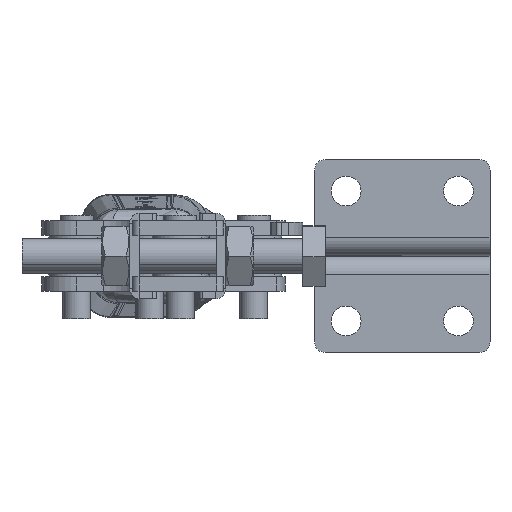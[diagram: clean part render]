
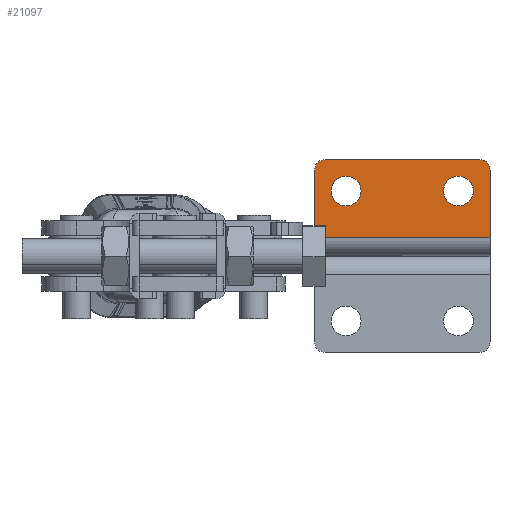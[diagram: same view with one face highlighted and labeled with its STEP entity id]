
A CAD part, left-side view. The second image highlights one B-rep face of the part: STEP entity #21097.
In plain terms, the highlighted planar face has unit normal (-1, 0, 0).
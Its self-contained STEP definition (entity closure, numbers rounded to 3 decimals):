
#431 = EDGE_CURVE ( 'NONE', #11161, #22564, #11513, .T. ) ;
#456 = CARTESIAN_POINT ( 'NONE',  ( -30.25, 22.409, 0. ) ) ;
#732 = CIRCLE ( 'NONE', #23897, 4.25 ) ;
#737 = VERTEX_POINT ( 'NONE', #19808 ) ;
#911 = CARTESIAN_POINT ( 'NONE',  ( -30.25, 19.409, 20.25 ) ) ;
#1517 = EDGE_CURVE ( 'NONE', #11161, #737, #16766, .T. ) ;
#1568 = DIRECTION ( 'NONE',  ( 0., 0., -1. ) ) ;
#1666 = ORIENTED_EDGE ( 'NONE', *, *, #1517, .F. ) ;
#2312 = CARTESIAN_POINT ( 'NONE',  ( -30.25, 0., 23.25 ) ) ;
#2887 = DIRECTION ( 'NONE',  ( 0., 0., -1. ) ) ;
#3035 = CARTESIAN_POINT ( 'NONE',  ( -30.25, 0., 0. ) ) ;
#3773 = EDGE_LOOP ( 'NONE', ( #10591, #19129 ) ) ;
#4104 = EDGE_CURVE ( 'NONE', #10961, #737, #20628, .T. ) ;
#4258 = DIRECTION ( 'NONE',  ( -1., 0., 0. ) ) ;
#4538 = FACE_OUTER_BOUND ( 'NONE', #17768, .T. ) ;
#4885 = VERTEX_POINT ( 'NONE', #19640 ) ;
#5220 = CARTESIAN_POINT ( 'NONE',  ( -30.25, -18.591, 18.5 ) ) ;
#5235 = ORIENTED_EDGE ( 'NONE', *, *, #10837, .T. ) ;
#5779 = CARTESIAN_POINT ( 'NONE',  ( -30.25, 13.409, 14.25 ) ) ;
#6040 = CIRCLE ( 'NONE', #24508, 4.25 ) ;
#6297 = VECTOR ( 'NONE', #18623, 1000. ) ;
#6302 = VECTOR ( 'NONE', #12948, 1000. ) ;
#6414 = CARTESIAN_POINT ( 'NONE',  ( -30.25, -27.591, 0. ) ) ;
#6474 = VERTEX_POINT ( 'NONE', #20149 ) ;
#6746 = CARTESIAN_POINT ( 'NONE',  ( -30.25, -18.591, 14.25 ) ) ;
#7232 = CIRCLE ( 'NONE', #16622, 4.25 ) ;
#7689 = VERTEX_POINT ( 'NONE', #16654 ) ;
#7780 = DIRECTION ( 'NONE',  ( 0., 0., -1. ) ) ;
#7871 = EDGE_CURVE ( 'NONE', #7689, #6474, #6040, .T. ) ;
#8100 = AXIS2_PLACEMENT_3D ( 'NONE', #21676, #9898, #23687 ) ;
#8184 = DIRECTION ( 'NONE',  ( 0., 1., 0. ) ) ;
#8736 = DIRECTION ( 'NONE',  ( 0., 0., -1. ) ) ;
#8836 = CARTESIAN_POINT ( 'NONE',  ( -30.25, 22.409, 20.25 ) ) ;
#8996 = DIRECTION ( 'NONE',  ( 0., 0., -1. ) ) ;
#9295 = EDGE_CURVE ( 'NONE', #20651, #4885, #7232, .T. ) ;
#9780 = FACE_BOUND ( 'NONE', #16838, .T. ) ;
#9898 = DIRECTION ( 'NONE',  ( 1., 0., 0. ) ) ;
#9954 = VECTOR ( 'NONE', #8184, 1000. ) ;
#10170 = VECTOR ( 'NONE', #24055, 1000. ) ;
#10591 = ORIENTED_EDGE ( 'NONE', *, *, #7871, .T. ) ;
#10795 = PLANE ( 'NONE',  #17121 ) ;
#10837 = EDGE_CURVE ( 'NONE', #11002, #11214, #19800, .T. ) ;
#10961 = VERTEX_POINT ( 'NONE', #8836 ) ;
#10962 = ORIENTED_EDGE ( 'NONE', *, *, #4104, .T. ) ;
#11002 = VERTEX_POINT ( 'NONE', #18801 ) ;
#11161 = VERTEX_POINT ( 'NONE', #23101 ) ;
#11214 = VERTEX_POINT ( 'NONE', #15449 ) ;
#11513 = LINE ( 'NONE', #6414, #6297 ) ;
#11646 = ORIENTED_EDGE ( 'NONE', *, *, #22384, .T. ) ;
#11659 = EDGE_CURVE ( 'NONE', #11214, #10961, #20138, .T. ) ;
#11929 = EDGE_CURVE ( 'NONE', #6474, #7689, #732, .T. ) ;
#12822 = ORIENTED_EDGE ( 'NONE', *, *, #9295, .T. ) ;
#12825 = CIRCLE ( 'NONE', #8100, 4.25 ) ;
#12948 = DIRECTION ( 'NONE',  ( 0., 1., 0. ) ) ;
#13383 = DIRECTION ( 'NONE',  ( 1., 0., 0. ) ) ;
#13805 = CIRCLE ( 'NONE', #18748, 3. ) ;
#14375 = ORIENTED_EDGE ( 'NONE', *, *, #431, .T. ) ;
#14688 = DIRECTION ( 'NONE',  ( -1., 0., 0. ) ) ;
#14924 = CARTESIAN_POINT ( 'NONE',  ( -30.25, 22.409, 1. ) ) ;
#14955 = CARTESIAN_POINT ( 'NONE',  ( -30.25, -27.591, 20.25 ) ) ;
#15449 = CARTESIAN_POINT ( 'NONE',  ( -30.25, 19.409, 23.25 ) ) ;
#16071 = CARTESIAN_POINT ( 'NONE',  ( -30.25, -24.591, 20.25 ) ) ;
#16622 = AXIS2_PLACEMENT_3D ( 'NONE', #6746, #20519, #8736 ) ;
#16654 = CARTESIAN_POINT ( 'NONE',  ( -30.25, 13.409, 10. ) ) ;
#16766 = LINE ( 'NONE', #14924, #6302 ) ;
#16838 = EDGE_LOOP ( 'NONE', ( #11646, #12822 ) ) ;
#17121 = AXIS2_PLACEMENT_3D ( 'NONE', #3035, #20782, #8996 ) ;
#17297 = ORIENTED_EDGE ( 'NONE', *, *, #19227, .T. ) ;
#17768 = EDGE_LOOP ( 'NONE', ( #14375, #17297, #5235, #20018, #10962, #1666 ) ) ;
#18029 = DIRECTION ( 'NONE',  ( 0., 0., -1. ) ) ;
#18623 = DIRECTION ( 'NONE',  ( 0., 0., 1. ) ) ;
#18748 = AXIS2_PLACEMENT_3D ( 'NONE', #16071, #4258, #18029 ) ;
#18801 = CARTESIAN_POINT ( 'NONE',  ( -30.25, -24.591, 23.25 ) ) ;
#19129 = ORIENTED_EDGE ( 'NONE', *, *, #11929, .T. ) ;
#19227 = EDGE_CURVE ( 'NONE', #22564, #11002, #13805, .T. ) ;
#19549 = DIRECTION ( 'NONE',  ( 1., 0., 0. ) ) ;
#19640 = CARTESIAN_POINT ( 'NONE',  ( -30.25, -18.591, 10. ) ) ;
#19800 = LINE ( 'NONE', #2312, #9954 ) ;
#19808 = CARTESIAN_POINT ( 'NONE',  ( -30.25, 22.409, 1. ) ) ;
#20018 = ORIENTED_EDGE ( 'NONE', *, *, #11659, .T. ) ;
#20138 = CIRCLE ( 'NONE', #24373, 3. ) ;
#20149 = CARTESIAN_POINT ( 'NONE',  ( -30.25, 13.409, 18.5 ) ) ;
#20519 = DIRECTION ( 'NONE',  ( 1., 0., 0. ) ) ;
#20628 = LINE ( 'NONE', #456, #10170 ) ;
#20651 = VERTEX_POINT ( 'NONE', #5220 ) ;
#20782 = DIRECTION ( 'NONE',  ( 1., 0., 0. ) ) ;
#21097 = ADVANCED_FACE ( 'NONE', ( #25470, #9780, #4538 ), #10795, .F. ) ;
#21676 = CARTESIAN_POINT ( 'NONE',  ( -30.25, -18.591, 14.25 ) ) ;
#22384 = EDGE_CURVE ( 'NONE', #4885, #20651, #12825, .T. ) ;
#22564 = VERTEX_POINT ( 'NONE', #14955 ) ;
#23101 = CARTESIAN_POINT ( 'NONE',  ( -30.25, -27.591, 1. ) ) ;
#23687 = DIRECTION ( 'NONE',  ( 0., 0., -1. ) ) ;
#23897 = AXIS2_PLACEMENT_3D ( 'NONE', #5779, #19549, #7780 ) ;
#24055 = DIRECTION ( 'NONE',  ( 0., 0., -1. ) ) ;
#24373 = AXIS2_PLACEMENT_3D ( 'NONE', #911, #14688, #2887 ) ;
#24508 = AXIS2_PLACEMENT_3D ( 'NONE', #25151, #13383, #1568 ) ;
#25151 = CARTESIAN_POINT ( 'NONE',  ( -30.25, 13.409, 14.25 ) ) ;
#25470 = FACE_BOUND ( 'NONE', #3773, .T. ) ;
